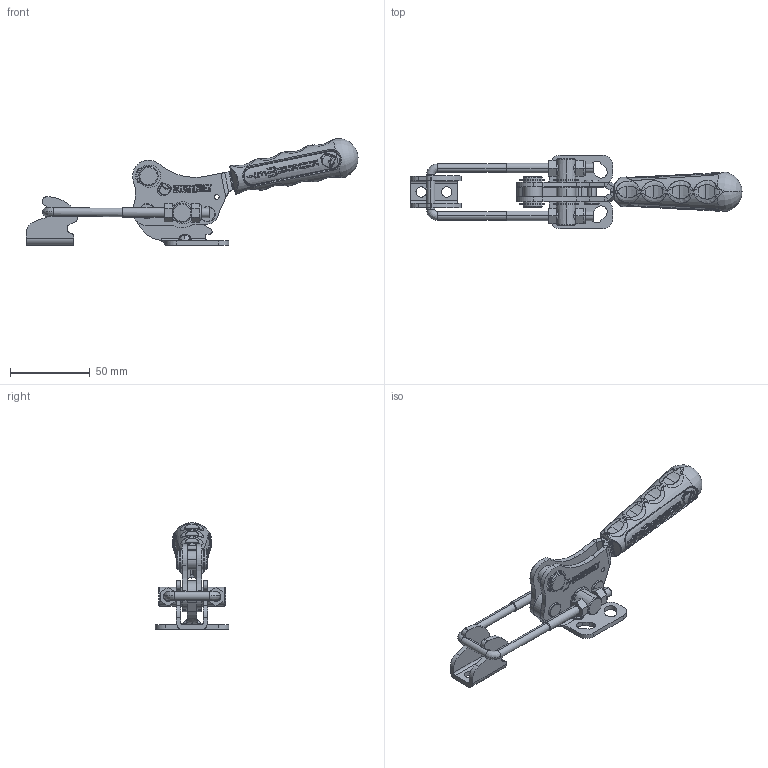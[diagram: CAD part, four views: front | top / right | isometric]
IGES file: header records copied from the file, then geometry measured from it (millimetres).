
Start section: 3D InterOp IGES (v. 2020 1.0.1), Spatial Corp. Copyright (c) 1999-2017.
Global section: file name: 311-3.igs; native system: Spatial Corp.; preprocessor: 3D InterOp ACIS/IGES; author: TraceParts; organization: TraceParts S.A.; date: 20231127.162904; units: millimetre
Bounding box: 208.17 x 46 x 67.04 mm (x, y, z)
Surface area: 34903.7 mm2 (no closed solid volume)
Topology: 0 solids, 0 shells, 2113 faces, 17381 edges, 17271 vertices
Faces by surface type: revolution 1065, bspline 538, extrusion 510
